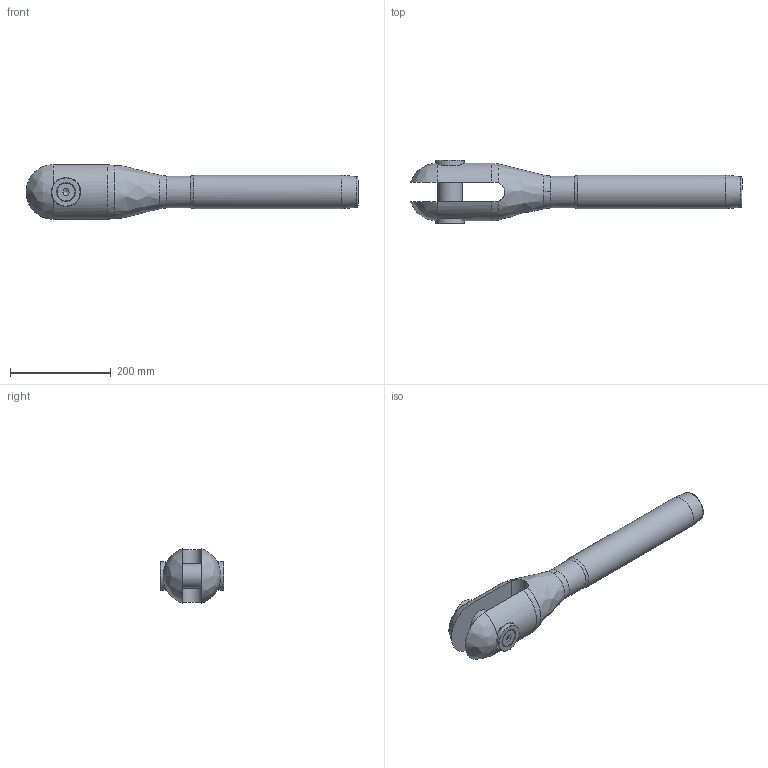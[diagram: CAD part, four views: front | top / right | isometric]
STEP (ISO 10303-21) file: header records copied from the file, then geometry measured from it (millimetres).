
FILE_DESCRIPTION(/* description */ (''),/* implementation_level */ '2;1');
FILE_NAME(/* name */ 'MAC 36_42CrMo4',/* time_stamp */ '2023-05-23T16:55:23+02:00',/* author */ (''),/* organization */ (''),/* preprocessor_version */ 'ST-DEVELOPER v16.5',/* originating_system */ 'Rhino 7.22',/* authorisation */ '');
FILE_SCHEMA (('CONFIG_CONTROL_DESIGN'));
Length unit declared in the file: millimetre
Products named in the file (1): Document
Bounding box: 659.97 x 126.07 x 108.19 mm (x, y, z)
Volume: 2913093.9 mm3; surface area: 245365.4 mm2
Topology: 6 solids, 6 shells, 75 faces, 210 edges, 145 vertices
Faces by surface type: plane 29, bspline 24, cylinder 22
Full cylindrical faces by diameter (mm): 17.294 x2, 20 x2, 21 x2, 35.4 x2, 49 x1, 51 x2, 57 x2, 63.5 x1, 66.8 x1
Entity records: 3170 total; most frequent: CARTESIAN_POINT 1823, ORIENTED_EDGE 412, EDGE_CURVE 206, VERTEX_POINT 145, EDGE_LOOP 85, B_SPLINE_CURVE_WITH_KNOTS 84, ADVANCED_FACE 75, FACE_OUTER_BOUND 75
